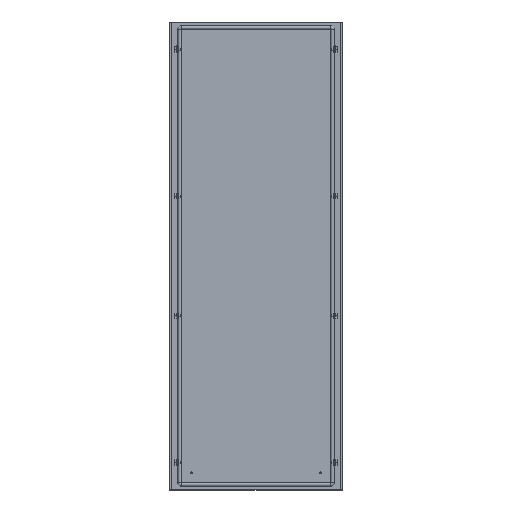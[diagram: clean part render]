
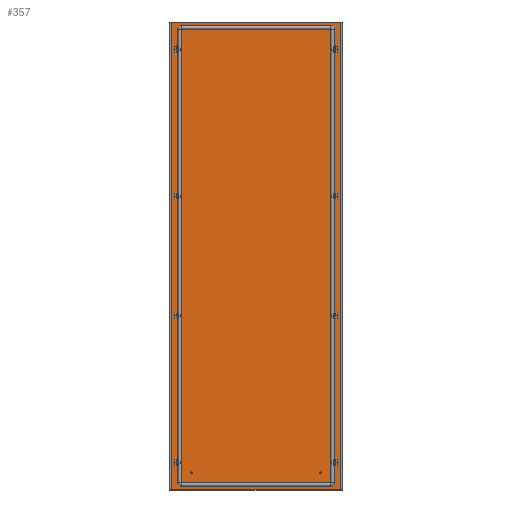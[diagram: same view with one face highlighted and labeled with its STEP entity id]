
A CAD part, top view. The second image highlights one B-rep face of the part: STEP entity #357.
In plain terms, the highlighted planar face has unit normal (0, 0, 1).
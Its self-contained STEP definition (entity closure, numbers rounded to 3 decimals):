
#357 = ADVANCED_FACE('',(#358,#456,#467,#478,#498,#518,#529,#540,#560),
  #580,.F.);
#358 = FACE_BOUND('',#359,.T.);
#359 = EDGE_LOOP('',(#360,#370,#378,#386,#394,#402,#410,#418,#426,#434,
    #442,#450));
#360 = ORIENTED_EDGE('',*,*,#361,.F.);
#361 = EDGE_CURVE('',#362,#364,#366,.T.);
#362 = VERTEX_POINT('',#363);
#363 = CARTESIAN_POINT('',(-395.5,1077.5,0.));
#364 = VERTEX_POINT('',#365);
#365 = CARTESIAN_POINT('',(-395.3,1077.5,0.));
#366 = LINE('',#367,#368);
#367 = CARTESIAN_POINT('',(0.,1077.5,
    0.));
#368 = VECTOR('',#369,1.);
#369 = DIRECTION('',(1.,0.,0.));
#370 = ORIENTED_EDGE('',*,*,#371,.T.);
#371 = EDGE_CURVE('',#362,#372,#374,.T.);
#372 = VERTEX_POINT('',#373);
#373 = CARTESIAN_POINT('',(-395.5,-1077.5,0.));
#374 = LINE('',#375,#376);
#375 = CARTESIAN_POINT('',(-395.5,0.,0.)
  );
#376 = VECTOR('',#377,1.);
#377 = DIRECTION('',(0.,-1.,0.));
#378 = ORIENTED_EDGE('',*,*,#379,.T.);
#379 = EDGE_CURVE('',#372,#380,#382,.T.);
#380 = VERTEX_POINT('',#381);
#381 = CARTESIAN_POINT('',(-395.3,-1077.5,0.));
#382 = LINE('',#383,#384);
#383 = CARTESIAN_POINT('',(0.,-1077.5,
    0.));
#384 = VECTOR('',#385,1.);
#385 = DIRECTION('',(1.,-0.,-0.));
#386 = ORIENTED_EDGE('',*,*,#387,.F.);
#387 = EDGE_CURVE('',#388,#380,#390,.T.);
#388 = VERTEX_POINT('',#389);
#389 = CARTESIAN_POINT('',(-395.3,-1076.,0.));
#390 = LINE('',#391,#392);
#391 = CARTESIAN_POINT('',(-395.3,0.,0.)
  );
#392 = VECTOR('',#393,1.);
#393 = DIRECTION('',(0.,-1.,0.));
#394 = ORIENTED_EDGE('',*,*,#395,.T.);
#395 = EDGE_CURVE('',#388,#396,#398,.T.);
#396 = VERTEX_POINT('',#397);
#397 = CARTESIAN_POINT('',(395.3,-1076.,0.
    ));
#398 = LINE('',#399,#400);
#399 = CARTESIAN_POINT('',(0.,-1076.,
    0.));
#400 = VECTOR('',#401,1.);
#401 = DIRECTION('',(1.,-0.,-0.));
#402 = ORIENTED_EDGE('',*,*,#403,.T.);
#403 = EDGE_CURVE('',#396,#404,#406,.T.);
#404 = VERTEX_POINT('',#405);
#405 = CARTESIAN_POINT('',(395.3,-1077.5,
    0.));
#406 = LINE('',#407,#408);
#407 = CARTESIAN_POINT('',(395.3,-1076.,0.
    ));
#408 = VECTOR('',#409,1.);
#409 = DIRECTION('',(0.,-1.,0.));
#410 = ORIENTED_EDGE('',*,*,#411,.F.);
#411 = EDGE_CURVE('',#412,#404,#414,.T.);
#412 = VERTEX_POINT('',#413);
#413 = CARTESIAN_POINT('',(395.5,-1077.5,
    0.));
#414 = LINE('',#415,#416);
#415 = CARTESIAN_POINT('',(0.,-1077.5,
    0.));
#416 = VECTOR('',#417,1.);
#417 = DIRECTION('',(-1.,0.,0.));
#418 = ORIENTED_EDGE('',*,*,#419,.T.);
#419 = EDGE_CURVE('',#412,#420,#422,.T.);
#420 = VERTEX_POINT('',#421);
#421 = CARTESIAN_POINT('',(395.5,1077.5,0.
    ));
#422 = LINE('',#423,#424);
#423 = CARTESIAN_POINT('',(395.5,0.,
    0.));
#424 = VECTOR('',#425,1.);
#425 = DIRECTION('',(0.,1.,0.));
#426 = ORIENTED_EDGE('',*,*,#427,.T.);
#427 = EDGE_CURVE('',#420,#428,#430,.T.);
#428 = VERTEX_POINT('',#429);
#429 = CARTESIAN_POINT('',(395.3,1077.5,0.
    ));
#430 = LINE('',#431,#432);
#431 = CARTESIAN_POINT('',(0.,1077.5,
    0.));
#432 = VECTOR('',#433,1.);
#433 = DIRECTION('',(-1.,0.,0.));
#434 = ORIENTED_EDGE('',*,*,#435,.F.);
#435 = EDGE_CURVE('',#436,#428,#438,.T.);
#436 = VERTEX_POINT('',#437);
#437 = CARTESIAN_POINT('',(395.3,1076.,0.)
  );
#438 = LINE('',#439,#440);
#439 = CARTESIAN_POINT('',(395.3,0.,
    0.));
#440 = VECTOR('',#441,1.);
#441 = DIRECTION('',(0.,1.,0.));
#442 = ORIENTED_EDGE('',*,*,#443,.T.);
#443 = EDGE_CURVE('',#436,#444,#446,.T.);
#444 = VERTEX_POINT('',#445);
#445 = CARTESIAN_POINT('',(-395.3,1076.,0.));
#446 = LINE('',#447,#448);
#447 = CARTESIAN_POINT('',(0.,1076.,
    0.));
#448 = VECTOR('',#449,1.);
#449 = DIRECTION('',(-1.,0.,0.));
#450 = ORIENTED_EDGE('',*,*,#451,.T.);
#451 = EDGE_CURVE('',#444,#364,#452,.T.);
#452 = LINE('',#453,#454);
#453 = CARTESIAN_POINT('',(-395.3,1076.,0.));
#454 = VECTOR('',#455,1.);
#455 = DIRECTION('',(0.,1.,0.));
#456 = FACE_BOUND('',#457,.T.);
#457 = EDGE_LOOP('',(#458));
#458 = ORIENTED_EDGE('',*,*,#459,.T.);
#459 = EDGE_CURVE('',#460,#460,#462,.T.);
#460 = VERTEX_POINT('',#461);
#461 = CARTESIAN_POINT('',(-364.5,-270.25,0.));
#462 = CIRCLE('',#463,4.75);
#463 = AXIS2_PLACEMENT_3D('',#464,#465,#466);
#464 = CARTESIAN_POINT('',(-364.5,-275.,0.));
#465 = DIRECTION('',(0.,0.,-1.));
#466 = DIRECTION('',(0.,1.,0.));
#467 = FACE_BOUND('',#468,.T.);
#468 = EDGE_LOOP('',(#469));
#469 = ORIENTED_EDGE('',*,*,#470,.T.);
#470 = EDGE_CURVE('',#471,#471,#473,.T.);
#471 = VERTEX_POINT('',#472);
#472 = CARTESIAN_POINT('',(364.5,-279.75,
    0.));
#473 = CIRCLE('',#474,4.75);
#474 = AXIS2_PLACEMENT_3D('',#475,#476,#477);
#475 = CARTESIAN_POINT('',(364.5,-275.,0.));
#476 = DIRECTION('',(-0.,0.,-1.));
#477 = DIRECTION('',(0.,-1.,0.));
#478 = FACE_BOUND('',#479,.T.);
#479 = EDGE_LOOP('',(#480,#491));
#480 = ORIENTED_EDGE('',*,*,#481,.F.);
#481 = EDGE_CURVE('',#482,#484,#486,.T.);
#482 = VERTEX_POINT('',#483);
#483 = CARTESIAN_POINT('',(-364.5,954.75,0.));
#484 = VERTEX_POINT('',#485);
#485 = CARTESIAN_POINT('',(-364.5,945.25,0.));
#486 = CIRCLE('',#487,4.75);
#487 = AXIS2_PLACEMENT_3D('',#488,#489,#490);
#488 = CARTESIAN_POINT('',(-364.5,950.,0.));
#489 = DIRECTION('',(0.,0.,1.));
#490 = DIRECTION('',(0.,1.,0.));
#491 = ORIENTED_EDGE('',*,*,#492,.F.);
#492 = EDGE_CURVE('',#484,#482,#493,.T.);
#493 = CIRCLE('',#494,4.75);
#494 = AXIS2_PLACEMENT_3D('',#495,#496,#497);
#495 = CARTESIAN_POINT('',(-364.5,950.,0.));
#496 = DIRECTION('',(0.,0.,1.));
#497 = DIRECTION('',(0.,1.,0.));
#498 = FACE_BOUND('',#499,.T.);
#499 = EDGE_LOOP('',(#500,#511));
#500 = ORIENTED_EDGE('',*,*,#501,.F.);
#501 = EDGE_CURVE('',#502,#504,#506,.T.);
#502 = VERTEX_POINT('',#503);
#503 = CARTESIAN_POINT('',(364.5,945.25,
    0.));
#504 = VERTEX_POINT('',#505);
#505 = CARTESIAN_POINT('',(364.5,954.75,
    0.));
#506 = CIRCLE('',#507,4.75);
#507 = AXIS2_PLACEMENT_3D('',#508,#509,#510);
#508 = CARTESIAN_POINT('',(364.5,950.,0.));
#509 = DIRECTION('',(0.,0.,1.));
#510 = DIRECTION('',(0.,-1.,0.));
#511 = ORIENTED_EDGE('',*,*,#512,.F.);
#512 = EDGE_CURVE('',#504,#502,#513,.T.);
#513 = CIRCLE('',#514,4.75);
#514 = AXIS2_PLACEMENT_3D('',#515,#516,#517);
#515 = CARTESIAN_POINT('',(364.5,950.,0.));
#516 = DIRECTION('',(0.,0.,1.));
#517 = DIRECTION('',(0.,-1.,0.));
#518 = FACE_BOUND('',#519,.T.);
#519 = EDGE_LOOP('',(#520));
#520 = ORIENTED_EDGE('',*,*,#521,.T.);
#521 = EDGE_CURVE('',#522,#522,#524,.T.);
#522 = VERTEX_POINT('',#523);
#523 = CARTESIAN_POINT('',(-364.5,-945.25,0.));
#524 = CIRCLE('',#525,4.75);
#525 = AXIS2_PLACEMENT_3D('',#526,#527,#528);
#526 = CARTESIAN_POINT('',(-364.5,-950.,0.));
#527 = DIRECTION('',(0.,0.,-1.));
#528 = DIRECTION('',(0.,1.,0.));
#529 = FACE_BOUND('',#530,.T.);
#530 = EDGE_LOOP('',(#531));
#531 = ORIENTED_EDGE('',*,*,#532,.T.);
#532 = EDGE_CURVE('',#533,#533,#535,.T.);
#533 = VERTEX_POINT('',#534);
#534 = CARTESIAN_POINT('',(364.5,-954.75,
    0.));
#535 = CIRCLE('',#536,4.75);
#536 = AXIS2_PLACEMENT_3D('',#537,#538,#539);
#537 = CARTESIAN_POINT('',(364.5,-950.,0.));
#538 = DIRECTION('',(-0.,0.,-1.));
#539 = DIRECTION('',(0.,-1.,0.));
#540 = FACE_BOUND('',#541,.T.);
#541 = EDGE_LOOP('',(#542,#553));
#542 = ORIENTED_EDGE('',*,*,#543,.F.);
#543 = EDGE_CURVE('',#544,#546,#548,.T.);
#544 = VERTEX_POINT('',#545);
#545 = CARTESIAN_POINT('',(364.5,270.25,
    0.));
#546 = VERTEX_POINT('',#547);
#547 = CARTESIAN_POINT('',(364.5,279.75,
    0.));
#548 = CIRCLE('',#549,4.75);
#549 = AXIS2_PLACEMENT_3D('',#550,#551,#552);
#550 = CARTESIAN_POINT('',(364.5,275.,0.));
#551 = DIRECTION('',(0.,0.,1.));
#552 = DIRECTION('',(0.,-1.,0.));
#553 = ORIENTED_EDGE('',*,*,#554,.F.);
#554 = EDGE_CURVE('',#546,#544,#555,.T.);
#555 = CIRCLE('',#556,4.75);
#556 = AXIS2_PLACEMENT_3D('',#557,#558,#559);
#557 = CARTESIAN_POINT('',(364.5,275.,0.));
#558 = DIRECTION('',(0.,0.,1.));
#559 = DIRECTION('',(0.,-1.,0.));
#560 = FACE_BOUND('',#561,.T.);
#561 = EDGE_LOOP('',(#562,#573));
#562 = ORIENTED_EDGE('',*,*,#563,.F.);
#563 = EDGE_CURVE('',#564,#566,#568,.T.);
#564 = VERTEX_POINT('',#565);
#565 = CARTESIAN_POINT('',(-364.5,279.75,0.));
#566 = VERTEX_POINT('',#567);
#567 = CARTESIAN_POINT('',(-364.5,270.25,0.));
#568 = CIRCLE('',#569,4.75);
#569 = AXIS2_PLACEMENT_3D('',#570,#571,#572);
#570 = CARTESIAN_POINT('',(-364.5,275.,0.));
#571 = DIRECTION('',(0.,0.,1.));
#572 = DIRECTION('',(0.,1.,0.));
#573 = ORIENTED_EDGE('',*,*,#574,.F.);
#574 = EDGE_CURVE('',#566,#564,#575,.T.);
#575 = CIRCLE('',#576,4.75);
#576 = AXIS2_PLACEMENT_3D('',#577,#578,#579);
#577 = CARTESIAN_POINT('',(-364.5,275.,0.));
#578 = DIRECTION('',(0.,0.,1.));
#579 = DIRECTION('',(0.,1.,0.));
#580 = PLANE('',#581);
#581 = AXIS2_PLACEMENT_3D('',#582,#583,#584);
#582 = CARTESIAN_POINT('',(0.,0.,
    0.));
#583 = DIRECTION('',(0.,0.,-1.));
#584 = DIRECTION('',(-1.,0.,0.));
